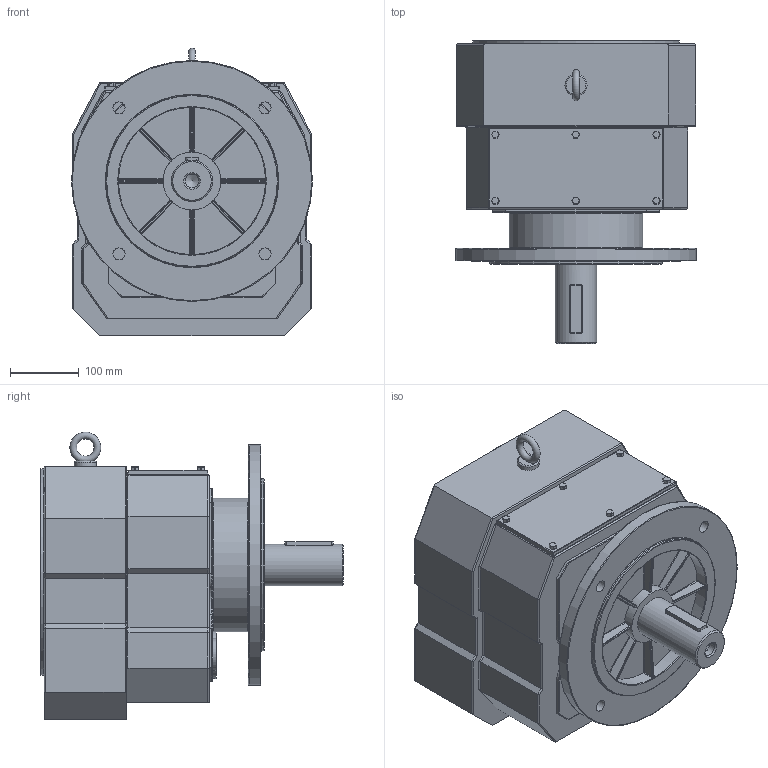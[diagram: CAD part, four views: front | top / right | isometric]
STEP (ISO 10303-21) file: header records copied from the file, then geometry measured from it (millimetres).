
FILE_DESCRIPTION((''),'2;1');
FILE_NAME('D:\PAWEŁ\ZLECENIA\2011 DualSystem\Przekładnie DR\DR90\STEP\DRF90_fi 350.stp','2012-06-11T12:19:06',('admin'),(''),'Autodesk Inventor 2009','Autodesk Inventor 2009','');
FILE_SCHEMA(('AUTOMOTIVE_DESIGN { 1 0 10303 214 1 1 1 1 }'));
Length unit declared in the file: millimetre
Products named in the file (1): DRF90_fi 350
Bounding box: 350 x 440 x 417.91 mm (x, y, z)
Volume: 30817071.2 mm3; surface area: 872997.4 mm2
Topology: 2 solids, 2 shells, 504 faces, 1206 edges, 682 vertices
Faces by surface type: cylinder 231, plane 165, sphere 44, bspline 43, torus 19, cone 2
Full cylindrical faces by diameter (mm): 32 x1, 46.667 x1, 60 x2, 70 x1, 84 x1, 194 x1, 214 x1, 220 x1, 250 x1, 300 x1, 350 x1
Entity records: 16913 total; most frequent: CARTESIAN_POINT 5326, DIRECTION 2486, ORIENTED_EDGE 2256, EDGE_CURVE 1128, AXIS2_PLACEMENT_3D 939, VERTEX_POINT 673, VECTOR 608, LINE 608
